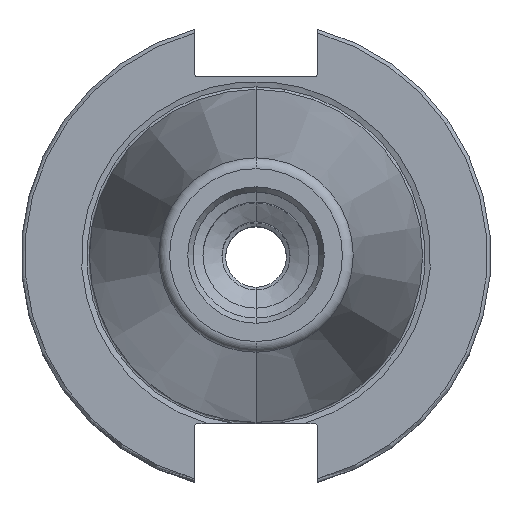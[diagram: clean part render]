
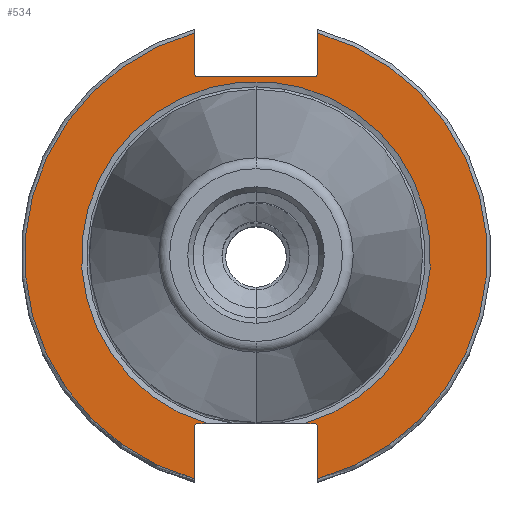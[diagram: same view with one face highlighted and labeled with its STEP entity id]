
A CAD part, top view. The second image highlights one B-rep face of the part: STEP entity #534.
In plain terms, the highlighted planar face has unit normal (0, 0, 1).
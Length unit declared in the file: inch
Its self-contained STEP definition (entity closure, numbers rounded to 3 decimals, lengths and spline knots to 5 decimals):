
#24 = LINE ( 'NONE', #2168, #1763 ) ;
#29 = DIRECTION ( 'NONE',  ( 0., 0., -1. ) ) ;
#35 = VERTEX_POINT ( 'NONE', #1818 ) ;
#81 = AXIS2_PLACEMENT_3D ( 'NONE', #2452, #3692, #1454 ) ;
#109 = CARTESIAN_POINT ( 'NONE',  ( -0.51, -1.83806, -0.125 ) ) ;
#161 = CIRCLE ( 'NONE', #2358, 0.03 ) ;
#231 = VERTEX_POINT ( 'NONE', #3508 ) ;
#245 = VERTEX_POINT ( 'NONE', #581 ) ;
#285 = VERTEX_POINT ( 'NONE', #1566 ) ;
#316 = ORIENTED_EDGE ( 'NONE', *, *, #1729, .T. ) ;
#363 = DIRECTION ( 'NONE',  ( 0., 1., 0. ) ) ;
#424 = EDGE_CURVE ( 'NONE', #3055, #231, #452, .T. ) ;
#438 = CARTESIAN_POINT ( 'NONE',  ( 0.51, 0., -0.125 ) ) ;
#452 = CIRCLE ( 'NONE', #2872, 1.9075 ) ;
#534 = ADVANCED_FACE ( 'NONE', ( #2412 ), #536, .T. ) ;
#536 = PLANE ( 'NONE',  #601 ) ;
#547 = DIRECTION ( 'NONE',  ( 0., 0., -1. ) ) ;
#561 = ORIENTED_EDGE ( 'NONE', *, *, #4114, .F. ) ;
#581 = CARTESIAN_POINT ( 'NONE',  ( 0.51, -1.4125, -0.125 ) ) ;
#601 = AXIS2_PLACEMENT_3D ( 'NONE', #1126, #4023, #3067 ) ;
#635 = ORIENTED_EDGE ( 'NONE', *, *, #1414, .T. ) ;
#661 = VERTEX_POINT ( 'NONE', #988 ) ;
#690 = DIRECTION ( 'NONE',  ( 0., 0., -1. ) ) ;
#726 = DIRECTION ( 'NONE',  ( 0., -1., 0. ) ) ;
#804 = CIRCLE ( 'NONE', #2402, 1.9075 ) ;
#851 = DIRECTION ( 'NONE',  ( 1., 0., 0. ) ) ;
#916 = ORIENTED_EDGE ( 'NONE', *, *, #1063, .F. ) ;
#983 = EDGE_CURVE ( 'NONE', #285, #1571, #804, .T. ) ;
#988 = CARTESIAN_POINT ( 'NONE',  ( -0.48, -1.3825, -0.125 ) ) ;
#991 = ORIENTED_EDGE ( 'NONE', *, *, #3113, .T. ) ;
#1063 = EDGE_CURVE ( 'NONE', #231, #1102, #1530, .T. ) ;
#1082 = VECTOR ( 'NONE', #363, 39.37008 ) ;
#1102 = VERTEX_POINT ( 'NONE', #3984 ) ;
#1126 = CARTESIAN_POINT ( 'NONE',  ( 1.9075, 0., -0.125 ) ) ;
#1144 = VECTOR ( 'NONE', #851, 39.37008 ) ;
#1160 = EDGE_LOOP ( 'NONE', ( #916, #1285, #4091, #1930, #635, #3483, #1950, #3348, #316, #2374, #561, #3308, #2516, #991 ) ) ;
#1167 = VERTEX_POINT ( 'NONE', #3111 ) ;
#1178 = CARTESIAN_POINT ( 'NONE',  ( 0., 0., -0.125 ) ) ;
#1214 = DIRECTION ( 'NONE',  ( 0., -1., 0. ) ) ;
#1232 = EDGE_CURVE ( 'NONE', #2719, #661, #2810, .T. ) ;
#1285 = ORIENTED_EDGE ( 'NONE', *, *, #424, .F. ) ;
#1318 = CARTESIAN_POINT ( 'NONE',  ( 0.51, -1.83806, -0.125 ) ) ;
#1338 = DIRECTION ( 'NONE',  ( 0., -1., 0. ) ) ;
#1414 = EDGE_CURVE ( 'NONE', #661, #3996, #3979, .T. ) ;
#1432 = CIRCLE ( 'NONE', #2766, 1.43979 ) ;
#1454 = DIRECTION ( 'NONE',  ( 0., -1., 0. ) ) ;
#1514 = EDGE_CURVE ( 'NONE', #35, #1167, #3068, .T. ) ;
#1530 = LINE ( 'NONE', #3447, #3208 ) ;
#1566 = CARTESIAN_POINT ( 'NONE',  ( 0.51, 1.83806, -0.125 ) ) ;
#1571 = VERTEX_POINT ( 'NONE', #1318 ) ;
#1645 = LINE ( 'NONE', #438, #2074 ) ;
#1710 = DIRECTION ( 'NONE',  ( 0., 0., -1. ) ) ;
#1728 = EDGE_CURVE ( 'NONE', #3055, #2719, #3307, .T. ) ;
#1729 = EDGE_CURVE ( 'NONE', #245, #1571, #1645, .T. ) ;
#1743 = CARTESIAN_POINT ( 'NONE',  ( 1.9075, -1.3825, -0.125 ) ) ;
#1763 = VECTOR ( 'NONE', #3801, 39.37008 ) ;
#1811 = CIRCLE ( 'NONE', #81, 0.03 ) ;
#1818 = CARTESIAN_POINT ( 'NONE',  ( 0.40209, -1.3825, -0.125 ) ) ;
#1830 = DIRECTION ( 'NONE',  ( 1., 0., 0. ) ) ;
#1867 = EDGE_CURVE ( 'NONE', #4103, #2995, #1811, .T. ) ;
#1880 = DIRECTION ( 'NONE',  ( 0., 0., -1. ) ) ;
#1930 = ORIENTED_EDGE ( 'NONE', *, *, #1232, .T. ) ;
#1942 = AXIS2_PLACEMENT_3D ( 'NONE', #2841, #1880, #2189 ) ;
#1950 = ORIENTED_EDGE ( 'NONE', *, *, #1514, .T. ) ;
#1953 = CARTESIAN_POINT ( 'NONE',  ( 0., 0., -0.125 ) ) ;
#2023 = CIRCLE ( 'NONE', #3895, 0.03 ) ;
#2074 = VECTOR ( 'NONE', #726, 39.37008 ) ;
#2090 = DIRECTION ( 'NONE',  ( 0., -1., 0. ) ) ;
#2137 = DIRECTION ( 'NONE',  ( 0., 0., -1. ) ) ;
#2168 = CARTESIAN_POINT ( 'NONE',  ( 0.51, 0., -0.125 ) ) ;
#2189 = DIRECTION ( 'NONE',  ( 0., -1., 0. ) ) ;
#2358 = AXIS2_PLACEMENT_3D ( 'NONE', #3706, #547, #2090 ) ;
#2369 = CARTESIAN_POINT ( 'NONE',  ( -0.51, -1.4125, -0.125 ) ) ;
#2374 = ORIENTED_EDGE ( 'NONE', *, *, #983, .F. ) ;
#2402 = AXIS2_PLACEMENT_3D ( 'NONE', #1953, #1710, #2576 ) ;
#2412 = FACE_OUTER_BOUND ( 'NONE', #1160, .T. ) ;
#2447 = EDGE_CURVE ( 'NONE', #4055, #2995, #3198, .T. ) ;
#2452 = CARTESIAN_POINT ( 'NONE',  ( 0.48, 1.5075, -0.125 ) ) ;
#2514 = EDGE_CURVE ( 'NONE', #1167, #245, #2023, .T. ) ;
#2516 = ORIENTED_EDGE ( 'NONE', *, *, #2447, .F. ) ;
#2576 = DIRECTION ( 'NONE',  ( 0., 1., 0. ) ) ;
#2649 = CARTESIAN_POINT ( 'NONE',  ( 0.48, -1.4125, -0.125 ) ) ;
#2719 = VERTEX_POINT ( 'NONE', #2369 ) ;
#2766 = AXIS2_PLACEMENT_3D ( 'NONE', #1178, #690, #2908 ) ;
#2810 = CIRCLE ( 'NONE', #1942, 0.03 ) ;
#2841 = CARTESIAN_POINT ( 'NONE',  ( -0.48, -1.4125, -0.125 ) ) ;
#2872 = AXIS2_PLACEMENT_3D ( 'NONE', #3437, #2137, #3415 ) ;
#2882 = CARTESIAN_POINT ( 'NONE',  ( 0.51, 1.5075, -0.125 ) ) ;
#2908 = DIRECTION ( 'NONE',  ( 0., 1., 0. ) ) ;
#2928 = CARTESIAN_POINT ( 'NONE',  ( 1.9075, 1.4775, -0.125 ) ) ;
#2995 = VERTEX_POINT ( 'NONE', #3928 ) ;
#3055 = VERTEX_POINT ( 'NONE', #109 ) ;
#3067 = DIRECTION ( 'NONE',  ( 0., -1., 0. ) ) ;
#3068 = LINE ( 'NONE', #3716, #1144 ) ;
#3111 = CARTESIAN_POINT ( 'NONE',  ( 0.48, -1.3825, -0.125 ) ) ;
#3113 = EDGE_CURVE ( 'NONE', #4055, #1102, #161, .T. ) ;
#3198 = LINE ( 'NONE', #2928, #3565 ) ;
#3208 = VECTOR ( 'NONE', #1214, 39.37008 ) ;
#3283 = EDGE_CURVE ( 'NONE', #3996, #35, #1432, .T. ) ;
#3307 = LINE ( 'NONE', #3610, #1082 ) ;
#3308 = ORIENTED_EDGE ( 'NONE', *, *, #1867, .T. ) ;
#3348 = ORIENTED_EDGE ( 'NONE', *, *, #2514, .T. ) ;
#3415 = DIRECTION ( 'NONE',  ( 0., 1., 0. ) ) ;
#3437 = CARTESIAN_POINT ( 'NONE',  ( 0., 0., -0.125 ) ) ;
#3447 = CARTESIAN_POINT ( 'NONE',  ( -0.51, 0., -0.125 ) ) ;
#3483 = ORIENTED_EDGE ( 'NONE', *, *, #3283, .T. ) ;
#3508 = CARTESIAN_POINT ( 'NONE',  ( -0.51, 1.83806, -0.125 ) ) ;
#3565 = VECTOR ( 'NONE', #3886, 39.37008 ) ;
#3610 = CARTESIAN_POINT ( 'NONE',  ( -0.51, 0., -0.125 ) ) ;
#3692 = DIRECTION ( 'NONE',  ( 0., 0., -1. ) ) ;
#3706 = CARTESIAN_POINT ( 'NONE',  ( -0.48, 1.5075, -0.125 ) ) ;
#3716 = CARTESIAN_POINT ( 'NONE',  ( 1.9075, -1.3825, -0.125 ) ) ;
#3801 = DIRECTION ( 'NONE',  ( 0., 1., 0. ) ) ;
#3814 = VECTOR ( 'NONE', #1830, 39.37008 ) ;
#3886 = DIRECTION ( 'NONE',  ( 1., 0., 0. ) ) ;
#3895 = AXIS2_PLACEMENT_3D ( 'NONE', #2649, #29, #1338 ) ;
#3928 = CARTESIAN_POINT ( 'NONE',  ( 0.48, 1.4775, -0.125 ) ) ;
#3979 = LINE ( 'NONE', #1743, #3814 ) ;
#3983 = CARTESIAN_POINT ( 'NONE',  ( -0.40209, -1.3825, -0.125 ) ) ;
#3984 = CARTESIAN_POINT ( 'NONE',  ( -0.51, 1.5075, -0.125 ) ) ;
#3996 = VERTEX_POINT ( 'NONE', #3983 ) ;
#4004 = CARTESIAN_POINT ( 'NONE',  ( -0.48, 1.4775, -0.125 ) ) ;
#4023 = DIRECTION ( 'NONE',  ( 0., 0., 1. ) ) ;
#4055 = VERTEX_POINT ( 'NONE', #4004 ) ;
#4091 = ORIENTED_EDGE ( 'NONE', *, *, #1728, .T. ) ;
#4103 = VERTEX_POINT ( 'NONE', #2882 ) ;
#4114 = EDGE_CURVE ( 'NONE', #4103, #285, #24, .T. ) ;
